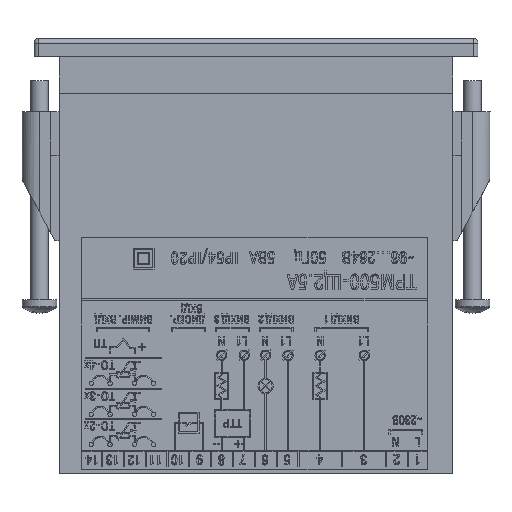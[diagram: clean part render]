
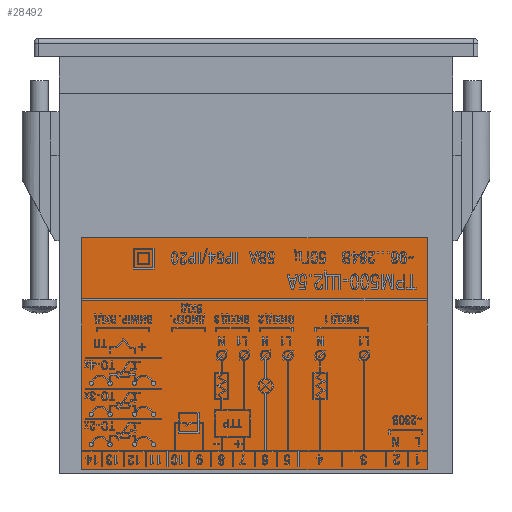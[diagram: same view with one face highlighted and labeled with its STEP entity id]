
A CAD part, front view. The second image highlights one B-rep face of the part: STEP entity #28492.
In plain terms, the highlighted planar face has unit normal (0, -1, 0).
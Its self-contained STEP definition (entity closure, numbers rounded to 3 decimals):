
#3830 = CARTESIAN_POINT ( 'NONE',  ( 0., -20.6, 0. ) ) ;
#10835 = VERTEX_POINT ( 'NONE', #72475 ) ;
#22173 = DIRECTION ( 'NONE',  ( 1., 0., 0. ) ) ;
#24133 = CARTESIAN_POINT ( 'NONE',  ( -39.862, -20.6, -45.5 ) ) ;
#28492 = ADVANCED_FACE ( 'NONE', ( #162771 ), #62886, .T. ) ;
#29211 = ORIENTED_EDGE ( 'NONE', *, *, #143404, .T. ) ;
#29739 = VERTEX_POINT ( 'NONE', #132204 ) ;
#29893 = VECTOR ( 'NONE', #140010, 1000. ) ;
#33545 = DIRECTION ( 'NONE',  ( -1., 0., 0. ) ) ;
#45551 = VERTEX_POINT ( 'NONE', #60983 ) ;
#46731 = CARTESIAN_POINT ( 'NONE',  ( -39.862, -20.6, -45.5 ) ) ;
#48470 = CARTESIAN_POINT ( 'NONE',  ( -39.862, -20.6, -98.5 ) ) ;
#50323 = LINE ( 'NONE', #48470, #148296 ) ;
#55277 = DIRECTION ( 'NONE',  ( 0., 0., -1. ) ) ;
#60983 = CARTESIAN_POINT ( 'NONE',  ( 39.138, -20.6, -45.5 ) ) ;
#62886 = PLANE ( 'NONE',  #145829 ) ;
#68425 = CARTESIAN_POINT ( 'NONE',  ( 39.138, -20.6, -45.5 ) ) ;
#72475 = CARTESIAN_POINT ( 'NONE',  ( -39.862, -20.6, -98.5 ) ) ;
#76707 = LINE ( 'NONE', #46731, #107074 ) ;
#99551 = ORIENTED_EDGE ( 'NONE', *, *, #141857, .T. ) ;
#103171 = CARTESIAN_POINT ( 'NONE',  ( -39.862, -20.6, -45.5 ) ) ;
#107074 = VECTOR ( 'NONE', #33545, 1000. ) ;
#113180 = ORIENTED_EDGE ( 'NONE', *, *, #177303, .T. ) ;
#118457 = DIRECTION ( 'NONE',  ( 0., -1., 0. ) ) ;
#130831 = VECTOR ( 'NONE', #183139, 1000. ) ;
#132204 = CARTESIAN_POINT ( 'NONE',  ( 39.138, -20.6, -98.5 ) ) ;
#140010 = DIRECTION ( 'NONE',  ( 0., 0., 1. ) ) ;
#141857 = EDGE_CURVE ( 'NONE', #148877, #10835, #152930, .T. ) ;
#143404 = EDGE_CURVE ( 'NONE', #29739, #45551, #155110, .T. ) ;
#145829 = AXIS2_PLACEMENT_3D ( 'NONE', #3830, #118457, #55277 ) ;
#148296 = VECTOR ( 'NONE', #22173, 1000. ) ;
#148877 = VERTEX_POINT ( 'NONE', #103171 ) ;
#152930 = LINE ( 'NONE', #24133, #130831 ) ;
#155110 = LINE ( 'NONE', #68425, #29893 ) ;
#158639 = ORIENTED_EDGE ( 'NONE', *, *, #164865, .T. ) ;
#162771 = FACE_OUTER_BOUND ( 'NONE', #182361, .T. ) ;
#164865 = EDGE_CURVE ( 'NONE', #45551, #148877, #76707, .T. ) ;
#177303 = EDGE_CURVE ( 'NONE', #10835, #29739, #50323, .T. ) ;
#182361 = EDGE_LOOP ( 'NONE', ( #29211, #158639, #99551, #113180 ) ) ;
#183139 = DIRECTION ( 'NONE',  ( 0., 0., -1. ) ) ;
